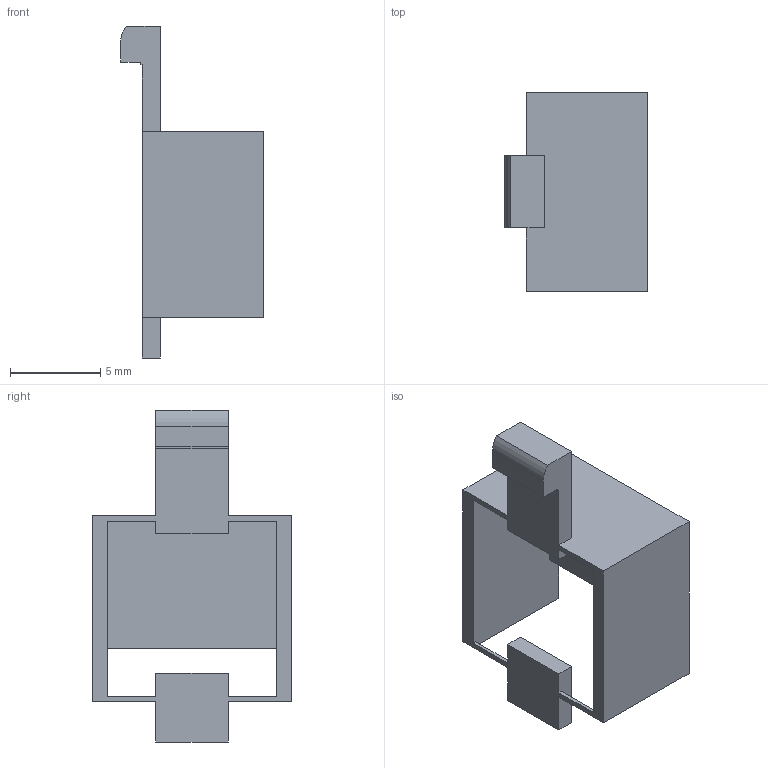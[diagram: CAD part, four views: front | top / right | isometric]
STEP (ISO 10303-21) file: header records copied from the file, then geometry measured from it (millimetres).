
FILE_DESCRIPTION(('Open CASCADE Model'),'2;1');
FILE_NAME('Open CASCADE Shape Model','2026-09-04T14:05:01',('Author'),( 'Open CASCADE'),'Open CASCADE STEP processor 7.7','Open CASCADE 7.7' ,'Unknown');
FILE_SCHEMA(('AUTOMOTIVE_DESIGN { 1 0 10303 214 1 1 1 1 }'));
Length unit declared in the file: millimetre
Products named in the file (1): Open CASCADE STEP translator 7.7 13
Bounding box: 7.9 x 11 x 18.38 mm (x, y, z)
Volume: 226.6 mm3; surface area: 710.3 mm2
Topology: 1 solids, 1 shells, 34 faces, 99 edges, 66 vertices
Faces by surface type: plane 33, cylinder 1
Entity records: 2352 total; most frequent: CARTESIAN_POINT 452, DIRECTION 315, LINE 239, VECTOR 239, ORIENTED_EDGE 198, PCURVE 198, DEFINITIONAL_REPRESENTATION 198, EDGE_CURVE 99
